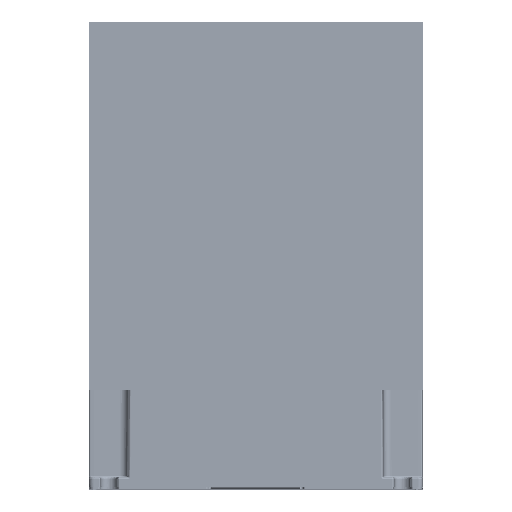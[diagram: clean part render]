
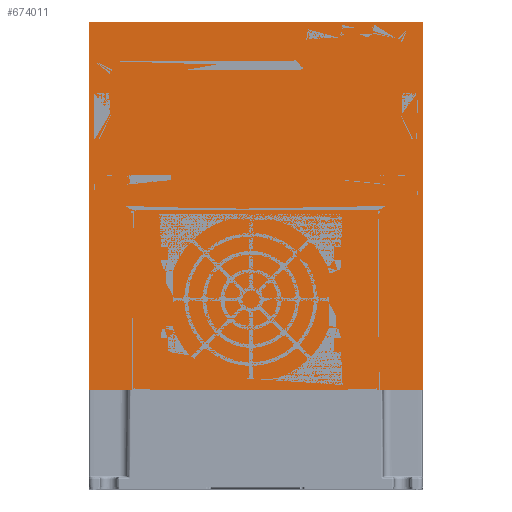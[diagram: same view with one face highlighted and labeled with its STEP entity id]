
A CAD part, top view. The second image highlights one B-rep face of the part: STEP entity #674011.
In plain terms, the highlighted planar face has unit normal (0, 0, 1).
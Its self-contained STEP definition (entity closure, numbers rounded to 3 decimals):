
#673921=DIRECTION('',(0.,1.,0.));
#673922=VECTOR('',#673921,193.);
#673923=CARTESIAN_POINT('',(87.5,0.,150.));
#673924=LINE('',#673923,#673922);
#673929=DIRECTION('',(-1.,0.,0.));
#673930=VECTOR('',#673929,175.);
#673931=CARTESIAN_POINT('',(87.5,0.,150.));
#673932=LINE('',#673931,#673930);
#673933=DIRECTION('',(0.,1.,0.));
#673934=VECTOR('',#673933,193.);
#673935=CARTESIAN_POINT('',(-87.5,0.,150.));
#673936=LINE('',#673935,#673934);
#673937=DIRECTION('',(1.,0.,0.));
#673938=VECTOR('',#673937,175.);
#673939=CARTESIAN_POINT('',(-87.5,193.,150.));
#673940=LINE('',#673939,#673938);
#673965=CARTESIAN_POINT('',(87.5,0.,150.));
#673967=VERTEX_POINT('',#673965);
#673971=CARTESIAN_POINT('',(-87.5,0.,150.));
#673972=VERTEX_POINT('',#673971);
#673973=CARTESIAN_POINT('',(87.5,193.,150.));
#673975=VERTEX_POINT('',#673973);
#673979=CARTESIAN_POINT('',(-87.5,193.,150.));
#673980=VERTEX_POINT('',#673979);
#673997=CARTESIAN_POINT('',(-87.5,0.,150.));
#673998=DIRECTION('',(0.,0.,1.));
#673999=DIRECTION('',(1.,0.,0.));
#674000=AXIS2_PLACEMENT_3D('',#673997,#673998,#673999);
#674001=PLANE('',#674000);
#674003=ORIENTED_EDGE('',*,*,#674002,.T.);
#674005=ORIENTED_EDGE('',*,*,#674004,.T.);
#674007=ORIENTED_EDGE('',*,*,#674006,.T.);
#674008=ORIENTED_EDGE('',*,*,#673988,.F.);
#674009=EDGE_LOOP('',(#674003,#674005,#674007,#674008));
#674010=FACE_OUTER_BOUND('',#674009,.F.);
#673988=EDGE_CURVE('',#673967,#673975,#673924,.T.);
#674002=EDGE_CURVE('',#673967,#673972,#673932,.T.);
#674004=EDGE_CURVE('',#673972,#673980,#673936,.T.);
#674006=EDGE_CURVE('',#673980,#673975,#673940,.T.);
#674011=ADVANCED_FACE('',(#674010),#674001,.T.);
